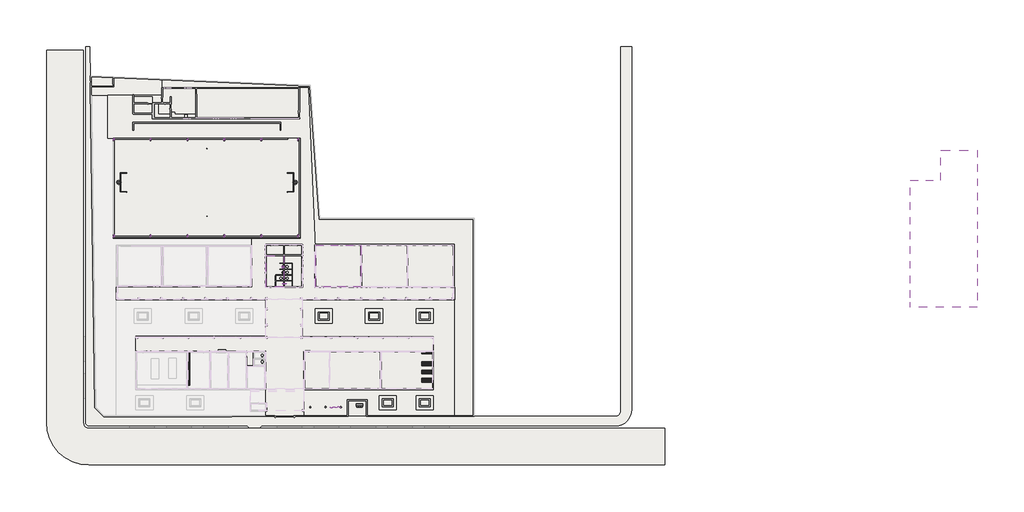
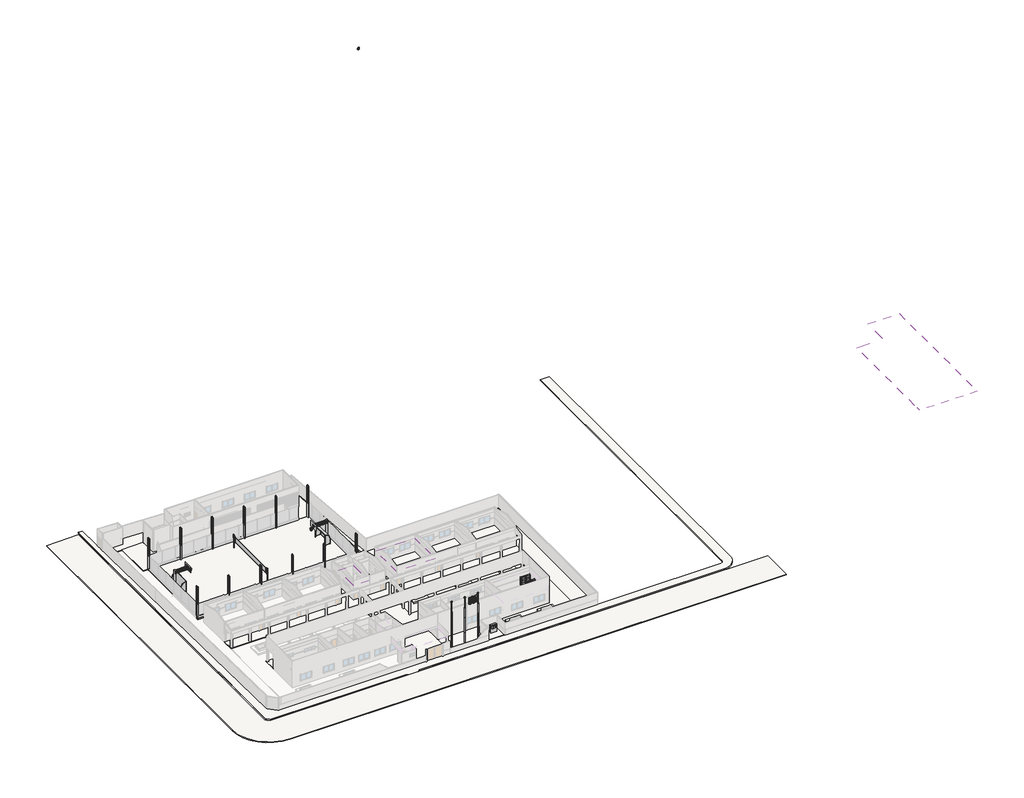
# One storey, part 28 of 28: 26 slabs, 22 furniture elements, 14 flow terminals, 13 beams, 12 columns, 5 proxies, 2 coverings, 1 geographic element, 1 roof.
"""IFC4 building model written with IfcOpenShell, lengths in millimetres."""

from ifc_helpers import new_model, si_unit, point, frame, frame_2d, origin, place, context, project, spatial, polyline, circle_curve, trimmed, segment, composite_curve, outline, extrude, faceted_brep, transform, mapped, element, save
from components import beam_10_x_25_cm_9de69e2e, specialty_equipment_000c56a8, specialty_equipment_3fbfa655, specialty_equipment_72d1c6bf, column_c75dbdb2, flow_terminal_de63d3b9, flow_terminal_a80b1843, flow_terminal_8aa249bb, flow_terminal_ba364ebe, furniture_3c5e9b6c, furniture_b24cb028, furniture_1b5c0fb5, casa2_casa_20683f13, geographic_element_0bd58b81

model = new_model("IFC4")

# Units and contexts
model_context = context("Model", 3, world=origin())
ifc_project = project(units=[si_unit("LENGTHUNIT", "METRE", prefix="MILLI")], contexts=[model_context])

# Site, building, storey
site = spatial("IfcSite", under=ifc_project)
building = spatial("IfcBuilding", under=site)
storey = spatial("IfcBuildingStorey", under=building, Name="Térreo", Elevation=0.0)

# Beams
placement = place(None, origin())
beam_10_x_25_cm_shape = beam_10_x_25_cm_9de69e2e(model_context)
element("IfcBeam", 1, ObjectType="AÇO - PILAR STEEL FRAME : 10 x 25 cm", at=placement, inside=storey, context=model_context, shape_type="MappedRepresentation", body=[
    mapped(beam_10_x_25_cm_shape, transform((-34690.0, 29370.2825557, 3000.0), x_axis=(0.0, 1.0, 0.0), y_axis=(-1.0, 0.0, 0.0), z_axis=(0.0, 0.0, 1.0))),
])
element("IfcBeam", 2, ObjectType="AÇO - PILAR STEEL FRAME : 10 x 25 cm", at=placement, inside=storey, context=model_context, shape_type="MappedRepresentation", body=[
    mapped(beam_10_x_25_cm_shape, transform((-34690.0, 45151.2025337, 3000.0), x_axis=(0.0, 1.0, 0.0), y_axis=(-1.0, 0.0, 0.0), z_axis=(0.0, 0.0, 1.0))),
])
element("IfcBeam", 3, ObjectType="AÇO - PILAR STEEL FRAME : 10 x 25 cm", at=placement, inside=storey, context=model_context, shape_type="MappedRepresentation", body=[
    mapped(beam_10_x_25_cm_shape, transform((-40690.0, 29370.2825557, 3000.0), x_axis=(0.0, 1.0, 0.0), y_axis=(-1.0, 0.0, 0.0), z_axis=(0.0, 0.0, 1.0))),
])
element("IfcBeam", 4, ObjectType="AÇO - PILAR STEEL FRAME : 10 x 25 cm", at=placement, inside=storey, context=model_context, shape_type="MappedRepresentation", body=[
    mapped(beam_10_x_25_cm_shape, transform((-40690.0, 45151.2025337, 3000.0), x_axis=(0.0, 1.0, 0.0), y_axis=(-1.0, 0.0, 0.0), z_axis=(0.0, 0.0, 1.0))),
])
element("IfcBeam", 5, ObjectType="AÇO - PILAR STEEL FRAME : 10 x 25 cm", at=placement, inside=storey, context=model_context, shape_type="MappedRepresentation", body=[
    mapped(beam_10_x_25_cm_shape, transform((-46690.0, 29370.2825557, 3000.0), x_axis=(0.0, 1.0, 0.0), y_axis=(-1.0, 0.0, 0.0), z_axis=(0.0, 0.0, 1.0))),
])
element("IfcBeam", 6, ObjectType="AÇO - PILAR STEEL FRAME : 10 x 25 cm", at=placement, inside=storey, context=model_context, shape_type="MappedRepresentation", body=[
    mapped(beam_10_x_25_cm_shape, transform((-46690.0, 45151.2025337, 3000.0), x_axis=(0.0, 1.0, 0.0), y_axis=(-1.0, 0.0, 0.0), z_axis=(0.0, 0.0, 1.0))),
])
element("IfcBeam", 7, ObjectType="AÇO - PILAR STEEL FRAME : 10 x 25 cm", at=placement, inside=storey, context=model_context, shape_type="MappedRepresentation", body=[
    mapped(beam_10_x_25_cm_shape, transform((-52690.0, 29370.2825557, 3000.0), x_axis=(0.0, 1.0, 0.0), y_axis=(-1.0, 0.0, 0.0), z_axis=(0.0, 0.0, 1.0))),
])
element("IfcBeam", 8, ObjectType="AÇO - PILAR STEEL FRAME : 10 x 25 cm", at=placement, inside=storey, context=model_context, shape_type="MappedRepresentation", body=[
    mapped(beam_10_x_25_cm_shape, transform((-58690.0, 29370.2825557, 3000.0), x_axis=(0.0, 1.0, 0.0), y_axis=(-1.0, 0.0, 0.0), z_axis=(0.0, 0.0, 1.0))),
])
element("IfcBeam", 9, ObjectType="AÇO - PILAR STEEL FRAME : 10 x 25 cm", at=placement, inside=storey, context=model_context, shape_type="MappedRepresentation", body=[
    mapped(beam_10_x_25_cm_shape, transform((-58690.0, 45151.2025337, 3000.0), x_axis=(0.0, 1.0, 0.0), y_axis=(-1.0, 0.0, 0.0), z_axis=(0.0, 0.0, 1.0))),
])
element("IfcBeam", 10, ObjectType="AÇO - PILAR STEEL FRAME : 10 x 25 cm", at=placement, inside=storey, context=model_context, shape_type="MappedRepresentation", body=[
    mapped(beam_10_x_25_cm_shape, transform((-52690.0, 29370.2825557, 3000.0), x_axis=(0.0, 1.0, 0.0), y_axis=(-1.0, 0.0, 0.0), z_axis=(0.0, 0.0, 1.0))),
])
element("IfcBeam", 11, ObjectType="AÇO - PILAR STEEL FRAME : 10 x 25 cm", at=placement, inside=storey, context=model_context, shape_type="MappedRepresentation", body=[
    mapped(beam_10_x_25_cm_shape, transform((-52690.0, 45151.2025337, 3000.0), x_axis=(0.0, 1.0, 0.0), y_axis=(-1.0, 0.0, 0.0), z_axis=(0.0, 0.0, 1.0))),
])
element("IfcBeam", 12, ObjectType="AÇO - PILAR STEEL FRAME : 10 x 25 cm", at=placement, inside=storey, context=model_context, shape_type="MappedRepresentation", body=[
    mapped(beam_10_x_25_cm_shape, transform((-28690.0, 29370.2825557, 3000.0), x_axis=(0.0, 1.0, 0.0), y_axis=(-1.0, 0.0, 0.0), z_axis=(0.0, 0.0, 1.0))),
])
element("IfcBeam", 13, ObjectType="AÇO - PILAR STEEL FRAME : 10 x 25 cm", at=placement, inside=storey, context=model_context, shape_type="MappedRepresentation", body=[
    mapped(beam_10_x_25_cm_shape, transform((-28690.0, 45151.2025337, 3000.0), x_axis=(0.0, 1.0, 0.0), y_axis=(-1.0, 0.0, 0.0), z_axis=(0.0, 0.0, 1.0))),
])

# Proxies
specialty_equipment_shape = specialty_equipment_000c56a8(model_context)
element("IfcBuildingElementProxy", 14, Name="FDE_QE02_QE42_QE43_QE44_PosteVoleibol : QE44_Pré-laje_Treliçada", ObjectType="FDE_QE02_QE42_QE43_QE44_PosteVoleibol : QE44_Pré-laje_Treliçada", at=placement, inside=storey, context=model_context, shape_type="MappedRepresentation", body=[
    mapped(specialty_equipment_shape, transform((-43513.3750193, 38120.0, 370.0), x_axis=(0.0, 1.0, 0.0), y_axis=(-1.0, 0.0, 0.0), z_axis=(0.0, 0.0, 1.0))),
])
specialty_equipment_2_shape = specialty_equipment_3fbfa655(model_context)
element("IfcBuildingElementProxy", 15, Name="FDE_QE03_QE45_QE46_QE47_TraveFutebolSalão : QE47_PreLaje_Trelicada", ObjectType="FDE_QE03_QE45_QE46_QE47_TraveFutebolSalão : QE47_PreLaje_Trelicada", at=placement, inside=storey, context=model_context, shape_type="MappedRepresentation", body=[
    mapped(specialty_equipment_2_shape, transform((-56593.3750193, 38120.0, 370.0), x_axis=(0.0, 1.0, 0.0), y_axis=(-1.0, 0.0, 0.0), z_axis=(0.0, 0.0, 1.0))),
])
element("IfcBuildingElementProxy", 16, Name="FDE_QE03_QE45_QE46_QE47_TraveFutebolSalão : QE47_PreLaje_Trelicada", ObjectType="FDE_QE03_QE45_QE46_QE47_TraveFutebolSalão : QE47_PreLaje_Trelicada", at=placement, inside=storey, context=model_context, shape_type="MappedRepresentation", body=[
    mapped(specialty_equipment_2_shape, transform((-30433.3750193, 38120.0, 370.0), x_axis=(0.0, -1.0000000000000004, 0.0), y_axis=(1.0000000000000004, 0.0, 0.0), z_axis=(0.0, 0.0, 1.0))),
])
specialty_equipment_3_shape = specialty_equipment_72d1c6bf(model_context)
element("IfcBuildingElementProxy", 17, Name="FDE_QE39_QE40_TabelaDeBasquete : QE39_LajeAlveolar", ObjectType="FDE_QE39_QE40_TabelaDeBasquete : QE39_LajeAlveolar", at=placement, inside=storey, context=model_context, shape_type="MappedRepresentation", body=[
    mapped(specialty_equipment_3_shape, transform((-57853.3750193, 38120.0, 370.0), x_axis=(0.0, 1.0, 0.0), y_axis=(-1.0, 0.0, 0.0), z_axis=(0.0, 0.0, 1.0))),
])
element("IfcBuildingElementProxy", 18, Name="FDE_QE39_QE40_TabelaDeBasquete : QE39_LajeAlveolar", ObjectType="FDE_QE39_QE40_TabelaDeBasquete : QE39_LajeAlveolar", at=placement, inside=storey, context=model_context, shape_type="MappedRepresentation", body=[
    mapped(specialty_equipment_3_shape, transform((-29173.3750193, 38120.0, 370.0), x_axis=(0.0, -1.0000000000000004, 0.0), y_axis=(1.0000000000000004, 0.0, 0.0), z_axis=(0.0, 0.0, 1.0))),
])

# Columns
column_shape = column_c75dbdb2(model_context)
element("IfcColumn", 19, ObjectType="Coluna de Sustentação de tijolo Maciço : coluna da quadra", at=placement, inside=storey, context=model_context, shape_type="MappedRepresentation", body=[
    mapped(column_shape, transform((-34690.0, 29368.7010511, 0.0), x_axis=(0.0, 1.0, 0.0), y_axis=(-1.0, 0.0, 0.0), z_axis=(0.0, 0.0, 1.0))),
])
element("IfcColumn", 20, ObjectType="Coluna de Sustentação de tijolo Maciço : coluna da quadra", at=placement, inside=storey, context=model_context, shape_type="MappedRepresentation", body=[
    mapped(column_shape, transform((-34690.0, 45150.0, 0.0), x_axis=(0.0, 1.0, 0.0), y_axis=(-1.0, 0.0, 0.0), z_axis=(0.0, 0.0, 1.0))),
])
element("IfcColumn", 21, ObjectType="Coluna de Sustentação de tijolo Maciço : coluna da quadra", at=placement, inside=storey, context=model_context, shape_type="MappedRepresentation", body=[
    mapped(column_shape, transform((-40690.0, 29368.7010511, 0.0), x_axis=(0.0, 1.0, 0.0), y_axis=(-1.0, 0.0, 0.0), z_axis=(0.0, 0.0, 1.0))),
])
element("IfcColumn", 22, ObjectType="Coluna de Sustentação de tijolo Maciço : coluna da quadra", at=placement, inside=storey, context=model_context, shape_type="MappedRepresentation", body=[
    mapped(column_shape, transform((-40690.0, 45150.0, 0.0), x_axis=(0.0, 1.0, 0.0), y_axis=(-1.0, 0.0, 0.0), z_axis=(0.0, 0.0, 1.0))),
])
element("IfcColumn", 23, ObjectType="Coluna de Sustentação de tijolo Maciço : coluna da quadra", at=placement, inside=storey, context=model_context, shape_type="MappedRepresentation", body=[
    mapped(column_shape, transform((-46690.0, 29368.7010511, 0.0), x_axis=(0.0, 1.0, 0.0), y_axis=(-1.0, 0.0, 0.0), z_axis=(0.0, 0.0, 1.0))),
])
element("IfcColumn", 24, ObjectType="Coluna de Sustentação de tijolo Maciço : coluna da quadra", at=placement, inside=storey, context=model_context, shape_type="MappedRepresentation", body=[
    mapped(column_shape, transform((-46690.0, 45150.0, 0.0), x_axis=(0.0, 1.0, 0.0), y_axis=(-1.0, 0.0, 0.0), z_axis=(0.0, 0.0, 1.0))),
])
element("IfcColumn", 25, ObjectType="Coluna de Sustentação de tijolo Maciço : coluna da quadra", at=placement, inside=storey, context=model_context, shape_type="MappedRepresentation", body=[
    mapped(column_shape, transform((-58690.0, 29368.7010511, 0.0), x_axis=(0.0, 1.0, 0.0), y_axis=(-1.0, 0.0, 0.0), z_axis=(0.0, 0.0, 1.0))),
])
element("IfcColumn", 26, ObjectType="Coluna de Sustentação de tijolo Maciço : coluna da quadra", at=placement, inside=storey, context=model_context, shape_type="MappedRepresentation", body=[
    mapped(column_shape, transform((-58690.0, 45150.0, 0.0), x_axis=(0.0, 1.0, 0.0), y_axis=(-1.0, 0.0, 0.0), z_axis=(0.0, 0.0, 1.0))),
])
element("IfcColumn", 27, ObjectType="Coluna de Sustentação de tijolo Maciço : coluna da quadra", at=placement, inside=storey, context=model_context, shape_type="MappedRepresentation", body=[
    mapped(column_shape, transform((-52690.0, 29368.7010511, 0.0), x_axis=(0.0, 1.0, 0.0), y_axis=(-1.0, 0.0, 0.0), z_axis=(0.0, 0.0, 1.0))),
])
element("IfcColumn", 28, ObjectType="Coluna de Sustentação de tijolo Maciço : coluna da quadra", at=placement, inside=storey, context=model_context, shape_type="MappedRepresentation", body=[
    mapped(column_shape, transform((-52690.0, 45150.0, 0.0), x_axis=(0.0, 1.0, 0.0), y_axis=(-1.0, 0.0, 0.0), z_axis=(0.0, 0.0, 1.0))),
])
element("IfcColumn", 29, ObjectType="Coluna de Sustentação de tijolo Maciço : coluna da quadra", at=placement, inside=storey, context=model_context, shape_type="MappedRepresentation", body=[
    mapped(column_shape, transform((-28690.0, 29368.7010511, 0.0), x_axis=(0.0, 1.0, 0.0), y_axis=(-1.0, 0.0, 0.0), z_axis=(0.0, 0.0, 1.0))),
])
element("IfcColumn", 30, ObjectType="Coluna de Sustentação de tijolo Maciço : coluna da quadra", at=placement, inside=storey, context=model_context, shape_type="MappedRepresentation", body=[
    mapped(column_shape, transform((-28690.0, 45150.0, 0.0), x_axis=(0.0, 1.0, 0.0), y_axis=(-1.0, 0.0, 0.0), z_axis=(0.0, 0.0, 1.0))),
])

# Coverings
element("IfcCovering", 31, ObjectType="FDE_S1106_Gesso_Teto_comPintura_S1406_TintaLátexStandard_emSuperfíciedeGesso", at=placement, inside=storey, context=model_context, shape_type="SweptSolid", body=[
    extrude(outline(polyline([(-18450.0, 27930.0), (-18450.0, 21180.0), (-25800.0, 21180.0), (-25800.0, 27930.0), (-18450.0, 27930.0)])), frame((0.0, 0.0, 2900.0), z_axis=(0.0, 0.0, 1.0), x_axis=(1.0, 0.0, 0.0)), (0.0, 0.0, 1.0), 50.8),
    extrude(outline(polyline([(-10950.0, 21180.0), (-18300.0, 21180.0), (-18300.0, 27930.0), (-10950.0, 27930.0), (-10950.0, 21180.0)])), frame((0.0, 0.0, 2900.0), z_axis=(0.0, 0.0, 1.0), x_axis=(1.0, 0.0, 0.0)), (0.0, 0.0, 1.0), 50.8),
    extrude(outline(polyline([(-3450.0, 27930.0), (-3450.0, 21180.0), (-10800.0, 21180.0), (-10800.0, 27930.0), (-3450.0, 27930.0)])), frame((0.0, 0.0, 2900.0), z_axis=(0.0, 0.0, 1.0), x_axis=(1.0, 0.0, 0.0)), (0.0, 0.0, 1.0), 50.8),
    extrude(outline(polyline([(-43350.0, 27750.0), (-36320.0, 27750.0), (-36320.0, 21330.0), (-43350.0, 21330.0), (-43350.0, 27750.0)])), frame((0.0, 0.0, 2900.0), z_axis=(0.0, 0.0, 1.0), x_axis=(1.0, 0.0, 0.0)), (0.0, 0.0, 1.0), 50.8),
    extrude(outline(polyline([(-50650.0, 27779.9999994), (-43470.0, 27779.9999994), (-43470.0, 21330.0), (-50650.0, 21330.0), (-50650.0, 27779.9999994)])), frame((0.0, 0.0, 2900.0), z_axis=(0.0, 0.0, 1.0), x_axis=(1.0, 0.0, 0.0)), (0.0, 0.0, 1.0), 50.8),
    extrude(outline(polyline([(-57950.0, 21300.0), (-57950.0, 27750.0), (-50770.0, 27750.0), (-50770.0, 21300.0), (-57950.0, 21300.0)])), frame((0.0, 0.0, 2900.0), z_axis=(0.0, 0.0, 1.0), x_axis=(1.0, 0.0, 0.0)), (0.0, 0.0, 1.0), 50.8),
])
element("IfcCovering", 32, ObjectType="FDE_S1106_Gesso_Teto_comPintura_S1406_TintaLátexStandard_emSuperfíciedeGesso", at=placement, inside=storey, context=model_context, shape_type="SweptSolid", body=[
    extrude(outline(polyline([(-31020.0, 27900.0), (-31020.0, 26345.0), (-33900.0, 26345.0), (-33900.0, 27900.0), (-31020.0, 27900.0)])), frame((0.0, 0.0, 2900.0), z_axis=(0.0, 0.0, 1.0), x_axis=(1.0, 0.0, 0.0)), (0.0, 0.0, 1.0), 50.8),
    extrude(outline(polyline([(-28050.0, 26375.0), (-30900.0, 26375.0), (-30900.0, 27900.0), (-28050.0, 27900.0), (-28050.0, 26375.0)])), frame((0.0, 0.0, 2900.0), z_axis=(0.0, 0.0, 1.0), x_axis=(1.0, 0.0, 0.0)), (0.0, 0.0, 1.0), 50.8),
    extrude(outline(polyline([(-30900.0, 26225.0), (-28050.0, 26225.0), (-28050.0, 21180.0), (-30900.0, 21180.0), (-30900.0, 26225.0)])), frame((0.0, 0.0, 2900.0), z_axis=(0.0, 0.0, 1.0), x_axis=(1.0, 0.0, 0.0)), (0.0, 0.0, 1.0), 50.8),
    extrude(outline(polyline([(-33900.0, 21180.0), (-33900.0, 26225.0), (-31050.0, 26225.0), (-31050.0, 21180.0), (-33900.0, 21180.0)])), frame((0.0, 0.0, 2900.0), z_axis=(0.0, 0.0, 1.0), x_axis=(1.0, 0.0, 0.0)), (0.0, 0.0, 1.0), 50.8),
])

# Flow terminals
flow_terminal_shape = flow_terminal_de63d3b9(model_context)
element("IfcFlowTerminal", 33, ObjectType="Deca_Chuveiro de Parede_AcquaPlus_1990.C.CT : 1990.C.CT", at=placement, inside=storey, context=model_context, shape_type="MappedRepresentation", body=[
    mapped(flow_terminal_shape, transform((-30930.0, 21630.0, 2100.0), x_axis=(0.0, 1.0, 0.0), y_axis=(0.0, 0.0, 1.0), z_axis=(1.0, 0.0, 0.0))),
])
element("IfcFlowTerminal", 34, ObjectType="Deca_Chuveiro de Parede_AcquaPlus_1990.C.CT : 1990.C.CT", at=placement, inside=storey, context=model_context, shape_type="MappedRepresentation", body=[
    mapped(flow_terminal_shape, transform((-30930.0, 21640.0, 2100.0), x_axis=(0.0, -1.0, 0.0), y_axis=(0.0, 0.0, 1.0), z_axis=(-1.0, 0.0, 0.0))),
])
flow_terminal_2_shape = flow_terminal_a80b1843(model_context)
element("IfcFlowTerminal", 35, ObjectType="DECA_MICTORIO_M_711_RFA : M.711.17_Branco Gelo GE17", at=placement, inside=storey, context=model_context, shape_type="MappedRepresentation", body=[
    mapped(flow_terminal_2_shape, transform((-31020.0, 24365.0, 107137.2089227), x_axis=(0.0, -1.0, 0.0), y_axis=(0.0, 0.0, 1.0), z_axis=(-1.0, 0.0, 0.0))),
])
element("IfcFlowTerminal", 36, ObjectType="DECA_MICTORIO_M_711_RFA : M.711.17_Branco Gelo GE17", at=placement, inside=storey, context=model_context, shape_type="MappedRepresentation", body=[
    mapped(flow_terminal_2_shape, transform((-31020.0, 24345.0, 107137.2089227), x_axis=(0.0, -1.0, 0.0), y_axis=(0.0, 0.0, 1.0), z_axis=(-1.0, 0.0, 0.0))),
])
element("IfcFlowTerminal", 37, ObjectType="DECA_MICTORIO_M_711_RFA : M.711.17_Branco Gelo GE17", at=placement, inside=storey, context=model_context, shape_type="MappedRepresentation", body=[
    mapped(flow_terminal_2_shape, transform((-31020.0, 23465.0, 737.2089227), x_axis=(0.0, -1.0, 0.0), y_axis=(0.0, 0.0, 1.0), z_axis=(-1.0, 0.0, 0.0))),
])
element("IfcFlowTerminal", 38, ObjectType="DECA_MICTORIO_M_711_RFA : M.711.17_Branco Gelo GE17", at=placement, inside=storey, context=model_context, shape_type="MappedRepresentation", body=[
    mapped(flow_terminal_2_shape, transform((-31020.0, 24425.0, 737.2089227), x_axis=(0.0, -1.0, 0.0), y_axis=(0.0, 0.0, 1.0), z_axis=(-1.0, 0.0, 0.0))),
])
flow_terminal_3_shape = flow_terminal_8aa249bb(model_context)
element("IfcFlowTerminal", 39, ObjectType="Deca_Shared_Assento_P.909 : Assento plástico com Microban - Ébano EB95", at=placement, inside=storey, context=model_context, shape_type="MappedRepresentation", body=[
    mapped(flow_terminal_3_shape, transform((-34524.6575758, 9156.2237191, 610.001125), x_axis=(1.0, 0.0, 0.0), y_axis=(0.0, 0.0, 1.0), z_axis=(0.0, -1.0, 0.0))),
])
element("IfcFlowTerminal", 40, ObjectType="Deca_Shared_Assento_P.909 : Assento plástico com Microban - Ébano EB95", at=placement, inside=storey, context=model_context, shape_type="MappedRepresentation", body=[
    mapped(flow_terminal_3_shape, transform((-34522.160678, 9753.025642, 610.7954583), x_axis=(-1.0, 0.0, 0.0), y_axis=(0.0, 0.0, 1.0), z_axis=(0.0, 1.0, 0.0))),
])
flow_terminal_4_shape = flow_terminal_ba364ebe(model_context)
element("IfcFlowTerminal", 41, ObjectType="FDE_H613_DispositivosRestritoresDeVazão : H613_RestritorDeVazãoPara6L/minTorneiraseMisturadores", at=placement, inside=storey, context=model_context, shape_type="MappedRepresentation", body=[
    mapped(flow_terminal_4_shape, transform((-28851.9959332, 27832.7643972, 1151.4979925), x_axis=(-1.0, 0.0, 0.0), y_axis=(0.0, -1.0, 0.0), z_axis=(0.0, 0.0, 1.0))),
])
element("IfcFlowTerminal", 42, ObjectType="FDE_H613_DispositivosRestritoresDeVazão : H613_RestritorDeVazãoPara6L/minTorneiraseMisturadores", at=placement, inside=storey, context=model_context, shape_type="MappedRepresentation", body=[
    mapped(flow_terminal_4_shape, transform((-33123.8341964, 27832.7643972, 1151.4979925), x_axis=(-1.0, 0.0, 0.0), y_axis=(0.0, -1.0, 0.0), z_axis=(0.0, 0.0, 1.0))),
])
element("IfcFlowTerminal", 43, ObjectType="Deca_Shared_Assento_P.909 : Assento plástico com Microban - Ébano EB95", at=placement, inside=storey, context=model_context, shape_type="MappedRepresentation", body=[
    mapped(flow_terminal_3_shape, transform((-30691.5990385, 24423.7515511, 610.7954583), x_axis=(0.0, 1.0, 0.0), y_axis=(0.0, 0.0, 1.0), z_axis=(1.0, 0.0, 0.0))),
])
element("IfcFlowTerminal", 44, ObjectType="Deca_Shared_Assento_P.909 : Assento plástico com Microban - Ébano EB95", at=placement, inside=storey, context=model_context, shape_type="MappedRepresentation", body=[
    mapped(flow_terminal_3_shape, transform((-30691.5990385, 23483.7515511, 590.001125), x_axis=(0.0, 1.0, 0.0), y_axis=(0.0, 0.0, 1.0), z_axis=(1.0, 0.0, 0.0))),
])
element("IfcFlowTerminal", 45, ObjectType="Deca_Shared_Assento_P.909 : Assento plástico com Microban - Ébano EB95", at=placement, inside=storey, context=model_context, shape_type="MappedRepresentation", body=[
    mapped(flow_terminal_3_shape, transform((-31258.4009615, 22546.2484489, 590.001125), x_axis=(0.0, -1.0, 0.0), y_axis=(0.0, 0.0, 1.0), z_axis=(-1.0, 0.0, 0.0))),
])
element("IfcFlowTerminal", 46, ObjectType="Deca_Shared_Assento_P.909 : Assento plástico com Microban - Ébano EB95", at=placement, inside=storey, context=model_context, shape_type="MappedRepresentation", body=[
    mapped(flow_terminal_3_shape, transform((-30691.5990385, 22523.7515511, 590.001125), x_axis=(0.0, 1.0, 0.0), y_axis=(0.0, 0.0, 1.0), z_axis=(1.0, 0.0, 0.0))),
])

# Furniture
furniture_shape = furniture_3c5e9b6c(model_context)
element("IfcFurniture", 47, ObjectType="FDE_ES05_EstanteParaExposição : ES05_EstanteParaExposição", at=placement, inside=storey, context=model_context, shape_type="MappedRepresentation", body=[
    mapped(furniture_shape, transform((-7240.0, 6061.2369384, 210.0), x_axis=(1.0, 0.0, 0.0), y_axis=(0.0, 1.0, 0.0), z_axis=(0.0, 0.0, 1.0))),
])
element("IfcFurniture", 48, ObjectType="FDE_ES05_EstanteParaExposição : ES05_EstanteParaExposição", at=placement, inside=storey, context=model_context, shape_type="MappedRepresentation", body=[
    mapped(furniture_shape, transform((-8140.0, 5761.2369384, 210.0), x_axis=(-1.0, 0.0, 0.0), y_axis=(0.0, -1.0, 0.0), z_axis=(0.0, 0.0, 1.0))),
])
element("IfcFurniture", 49, ObjectType="FDE_ES05_EstanteParaExposição : ES05_EstanteParaExposição", at=placement, inside=storey, context=model_context, shape_type="MappedRepresentation", body=[
    mapped(furniture_shape, transform((-7240.0, 7411.2369399, 210.0), x_axis=(1.0, 0.0, 0.0), y_axis=(0.0, 1.0, 0.0), z_axis=(0.0, 0.0, 1.0))),
])
element("IfcFurniture", 50, ObjectType="FDE_ES05_EstanteParaExposição : ES05_EstanteParaExposição", at=placement, inside=storey, context=model_context, shape_type="MappedRepresentation", body=[
    mapped(furniture_shape, transform((-8140.0, 7111.2369399, 210.0), x_axis=(-1.0, 0.0, 0.0), y_axis=(0.0, -1.0, 0.0), z_axis=(0.0, 0.0, 1.0))),
])
element("IfcFurniture", 51, ObjectType="FDE_ES05_EstanteParaExposição : ES05_EstanteParaExposição", at=placement, inside=storey, context=model_context, shape_type="MappedRepresentation", body=[
    mapped(furniture_shape, transform((-7240.0, 8761.2369414, 210.0), x_axis=(1.0, 0.0, 0.0), y_axis=(0.0, 1.0, 0.0), z_axis=(0.0, 0.0, 1.0))),
])
element("IfcFurniture", 52, ObjectType="FDE_ES05_EstanteParaExposição : ES05_EstanteParaExposição", at=placement, inside=storey, context=model_context, shape_type="MappedRepresentation", body=[
    mapped(furniture_shape, transform((-8140.0, 8461.2369414, 210.0), x_axis=(-1.0, 0.0, 0.0), y_axis=(0.0, -1.0, 0.0), z_axis=(0.0, 0.0, 1.0))),
])
element("IfcFurniture", 53, ObjectType="FDE_ES05_EstanteParaExposição : ES05_EstanteParaExposição", at=placement, inside=storey, context=model_context, shape_type="MappedRepresentation", body=[
    mapped(furniture_shape, transform((-7240.0, 10410.0, 210.0), x_axis=(1.0, 0.0, 0.0), y_axis=(0.0, 1.0, 0.0), z_axis=(0.0, 0.0, 1.0))),
])
element("IfcFurniture", 54, ObjectType="FDE_ES05_EstanteParaExposição : ES05_EstanteParaExposição", at=placement, inside=storey, context=model_context, shape_type="MappedRepresentation", body=[
    mapped(furniture_shape, transform((-46483.4091269, 9167.3195082, 210.0), x_axis=(0.0, -1.0, 0.0), y_axis=(1.0, 0.0, 0.0), z_axis=(0.0, 0.0, 1.0))),
])
element("IfcFurniture", 55, ObjectType="FDE_ES05_EstanteParaExposição : ES05_EstanteParaExposição", at=placement, inside=storey, context=model_context, shape_type="MappedRepresentation", body=[
    mapped(furniture_shape, transform((-46483.4091269, 7369.5695082, 210.0), x_axis=(0.0, -1.0, 0.0), y_axis=(1.0, 0.0, 0.0), z_axis=(0.0, 0.0, 1.0))),
])
element("IfcFurniture", 56, ObjectType="FDE_ES05_EstanteParaExposição : ES05_EstanteParaExposição", at=placement, inside=storey, context=model_context, shape_type="MappedRepresentation", body=[
    mapped(furniture_shape, transform((-46483.4091269, 5571.0195082, 210.0), x_axis=(0.0, -1.0, 0.0), y_axis=(1.0, 0.0, 0.0), z_axis=(0.0, 0.0, 1.0))),
])
furniture_2_shape = furniture_b24cb028(model_context)
element("IfcFurniture", 57, ObjectType="FDE_ES05_EstanteParaExposição : ES05_EstanteParaExposição", at=placement, inside=storey, context=model_context, shape_type="MappedRepresentation", body=[
    mapped(furniture_2_shape, transform((-7240.0, 5761.2369384, 210.0), x_axis=(1.0, 0.0, 0.0), y_axis=(0.0, 1.0, 0.0), z_axis=(0.0, 0.0, 1.0))),
])
element("IfcFurniture", 58, ObjectType="FDE_ES05_EstanteParaExposição : ES05_EstanteParaExposição", at=placement, inside=storey, context=model_context, shape_type="MappedRepresentation", body=[
    mapped(furniture_2_shape, transform((-8140.0, 6061.2369384, 210.0), x_axis=(-1.0, 0.0, 0.0), y_axis=(0.0, -1.0, 0.0), z_axis=(0.0, 0.0, 1.0))),
])
element("IfcFurniture", 59, ObjectType="FDE_ES05_EstanteParaExposição : ES05_EstanteParaExposição", at=placement, inside=storey, context=model_context, shape_type="MappedRepresentation", body=[
    mapped(furniture_2_shape, transform((-7240.0, 7111.2369399, 210.0), x_axis=(1.0, 0.0, 0.0), y_axis=(0.0, 1.0, 0.0), z_axis=(0.0, 0.0, 1.0))),
])
element("IfcFurniture", 60, ObjectType="FDE_ES05_EstanteParaExposição : ES05_EstanteParaExposição", at=placement, inside=storey, context=model_context, shape_type="MappedRepresentation", body=[
    mapped(furniture_2_shape, transform((-8140.0, 7411.2369399, 210.0), x_axis=(-1.0, 0.0, 0.0), y_axis=(0.0, -1.0, 0.0), z_axis=(0.0, 0.0, 1.0))),
])
element("IfcFurniture", 61, ObjectType="FDE_ES05_EstanteParaExposição : ES05_EstanteParaExposição", at=placement, inside=storey, context=model_context, shape_type="MappedRepresentation", body=[
    mapped(furniture_2_shape, transform((-7240.0, 8461.2369414, 210.0), x_axis=(1.0, 0.0, 0.0), y_axis=(0.0, 1.0, 0.0), z_axis=(0.0, 0.0, 1.0))),
])
element("IfcFurniture", 62, ObjectType="FDE_ES05_EstanteParaExposição : ES05_EstanteParaExposição", at=placement, inside=storey, context=model_context, shape_type="MappedRepresentation", body=[
    mapped(furniture_2_shape, transform((-8140.0, 8761.2369414, 210.0), x_axis=(-1.0, 0.0, 0.0), y_axis=(0.0, -1.0, 0.0), z_axis=(0.0, 0.0, 1.0))),
])
element("IfcFurniture", 63, ObjectType="FDE_ES05_EstanteParaExposição : ES05_EstanteParaExposição", at=placement, inside=storey, context=model_context, shape_type="MappedRepresentation", body=[
    mapped(furniture_2_shape, transform((-8140.0, 10410.0, 210.0), x_axis=(-1.0, 0.0, 0.0), y_axis=(0.0, -1.0, 0.0), z_axis=(0.0, 0.0, 1.0))),
])
element("IfcFurniture", 64, ObjectType="FDE_ES05_EstanteParaExposição : ES05_EstanteParaExposição", at=placement, inside=storey, context=model_context, shape_type="MappedRepresentation", body=[
    mapped(furniture_2_shape, transform((-46483.4091269, 10067.3195082, 210.0), x_axis=(0.0, 1.0, 0.0), y_axis=(-1.0, 0.0, 0.0), z_axis=(0.0, 0.0, 1.0))),
])
element("IfcFurniture", 65, ObjectType="FDE_ES05_EstanteParaExposição : ES05_EstanteParaExposição", at=placement, inside=storey, context=model_context, shape_type="MappedRepresentation", body=[
    mapped(furniture_2_shape, transform((-46483.4091269, 8269.5695082, 210.0), x_axis=(0.0, 1.0, 0.0), y_axis=(-1.0, 0.0, 0.0), z_axis=(0.0, 0.0, 1.0))),
])
element("IfcFurniture", 66, ObjectType="FDE_ES05_EstanteParaExposição : ES05_EstanteParaExposição", at=placement, inside=storey, context=model_context, shape_type="MappedRepresentation", body=[
    mapped(furniture_2_shape, transform((-46483.4091269, 6471.0195082, 210.0), x_axis=(0.0, 1.0, 0.0), y_axis=(-1.0, 0.0, 0.0), z_axis=(0.0, 0.0, 1.0))),
])
furniture_3_shape = furniture_1b5c0fb5(model_context)
element("IfcFurniture", 67, ObjectType="FDE_BD02_BandeiraPaulista2 : BD02_BandeiraPiauí", at=placement, inside=storey, context=model_context, shape_type="MappedRepresentation", body=[
    mapped(furniture_3_shape, transform((-21716.6522241, 1556.1487112, 7424.7150963), x_axis=(-1.0, 0.0, 0.0), y_axis=(0.0, -1.0, 0.0), z_axis=(0.0, 0.0, 1.0))),
])
casa2_casa_shape = casa2_casa_20683f13(model_context)
element("IfcFurniture", 68, ObjectType="Casa2 : Casa", at=placement, inside=storey, context=model_context, shape_type="MappedRepresentation", body=[
    mapped(casa2_casa_shape, transform((201527.0120546, 111341.1011936, 0.0), x_axis=(1.0, 0.0, 0.0), y_axis=(0.0, 1.0, 0.0), z_axis=(0.0, 0.0, 1.0))),
])

# Geographic element
geographic_element_shape = geographic_element_0bd58b81(model_context)
element("IfcGeographicElement", 69, ObjectType="FDE_MB03_MastrodeBandeira2 : MB03_MastrodeBandeira 2", at=placement, inside=storey, context=model_context, shape_type="MappedRepresentation", body=[
    mapped(geographic_element_shape, transform((-24216.6522241, 2056.1487112, 0.0), x_axis=(-1.0, 0.0, 0.0), y_axis=(0.0, -1.0, 0.0), z_axis=(0.0, 0.0, 1.0))),
])

# Roof
element("IfcRoof", 70, ObjectType="Telha Metálica", at=placement, inside=storey, context=model_context, shape_type="Brep", body=[
    faceted_brep([(75963.4893152, 43384.4596025, 3697.0), (81903.4893152, 43384.4596025, 4291.0), (81903.4893152, 17804.4596024, 4291.0), (70993.4893152, 17804.4596024, 3200.0), (70993.4893152, 19364.4596024, 3200.0), (70993.4893152, 38444.4596024, 3200.0), (75963.4893152, 38444.4596024, 3697.0), (81903.4893152, 43384.4596025, 4341.2493781), (75963.4893152, 43384.4596025, 3747.2493781), (75963.4893152, 38444.4596024, 3747.2493781), (70993.4893152, 38444.4596024, 3250.2493781), (70993.4893152, 19364.4596024, 3250.2493781), (70993.4893152, 17804.4596024, 3250.2493781), (81903.4893152, 17804.4596024, 4341.2493781)], [[[0, 1, 2, 3, 4, 5, 6]], [[7, 8, 9, 10, 11, 12, 13]], [[4, 11, 10, 5]], [[8, 7, 1, 0]], [[7, 13, 2, 1]], [[13, 12, 3, 2]], [[10, 9, 6, 5]], [[9, 8, 0, 6]], [[12, 11, 4, 3]]]),
])

# Slabs
element("IfcSlab", 71, ObjectType="FDE_PisoInterno_S1205_Granilite", at=placement, inside=storey, context=model_context, shape_type="SweptSolid", body=[
    extrude(outline(polyline([(-18450.0, 27900.0), (-18450.0, 21180.0), (-25800.0, 21180.0), (-25800.0, 27900.0), (-18450.0, 27900.0)])), frame((0.0, 0.0, 185.0), z_axis=(0.0, 0.0, 1.0), x_axis=(1.0, 0.0, 0.0)), (0.0, 0.0, 1.0), 35.0),
    extrude(outline(polyline([(-10950.0, 21180.0), (-18300.0, 21180.0), (-18300.0, 27900.0), (-10950.0, 27900.0), (-10950.0, 21180.0)])), frame((0.0, 0.0, 185.0), z_axis=(0.0, 0.0, 1.0), x_axis=(1.0, 0.0, 0.0)), (0.0, 0.0, 1.0), 35.0),
    extrude(outline(polyline([(-3450.0, 27900.0), (-3450.0, 21180.0), (-10800.0, 21180.0), (-10800.0, 27900.0), (-3450.0, 27900.0)])), frame((0.0, 0.0, 185.0), z_axis=(0.0, 0.0, 1.0), x_axis=(1.0, 0.0, 0.0)), (0.0, 0.0, 1.0), 35.0),
])
element("IfcSlab", 72, ObjectType="FDE_PisoInterno_S1205_Granilite", at=placement, inside=storey, context=model_context, shape_type="SweptSolid", body=[
    extrude(outline(polyline([(-15300.0, 4550.0), (-27630.0, 4550.0), (-27630.0, 10550.0), (-15300.0, 10550.0), (-15300.0, 4550.0)])), frame((0.0, 0.0, 185.0), z_axis=(0.0, 0.0, 1.0), x_axis=(1.0, 0.0, 0.0)), (0.0, 0.0, 1.0), 35.0),
    extrude(outline(polyline([(-6800.0, 10550.0), (-6800.0, 4550.0), (-15180.0, 4550.0), (-15180.0, 10550.0), (-6800.0, 10550.0)])), frame((0.0, 0.0, 185.0), z_axis=(0.0, 0.0, 1.0), x_axis=(1.0, 0.0, 0.0)), (0.0, 0.0, 1.0), 35.0),
])
element("IfcSlab", 73, ObjectType="FDE_PisoInterno_S1205_Granilite", at=placement, inside=storey, context=model_context, shape_type="SweptSolid", body=[
    extrude(outline(polyline([(-28600.0, 53419.0879102), (-28600.0, 48619.0879102), (-45220.0, 48619.0879102), (-45220.0, 53419.0879102), (-28600.0, 53419.0879102)])), frame((0.0, 0.0, 185.0), z_axis=(0.0, 0.0, 1.0), x_axis=(1.0, 0.0, 0.0)), (0.0, 0.0, 1.0), 35.0),
])
element("IfcSlab", 74, ObjectType="FDE_PisoInterno_S1205_Granilite", at=placement, inside=storey, context=model_context, shape_type="SweptSolid", body=[
    extrude(outline(polyline([(-49516.66665, 50919.0879102), (-49516.66665, 48619.0879102), (-50736.66665, 48619.0879102), (-50736.66665, 50919.0879102), (-49516.66665, 50919.0879102)])), frame((0.0, 0.0, 185.0), z_axis=(0.0, 0.0, 1.0), x_axis=(1.0, 0.0, 0.0)), (0.0, 0.0, 1.0), 35.0),
    extrude(outline(polyline([(-45370.0, 48619.0879102), (-49366.66665, 48619.0879102), (-49366.66665, 52069.0879102), (-49516.66665, 52069.0879102), (-49516.66665, 51069.0879102), (-50736.66665, 51069.0879102), (-50736.66665, 53419.0879102), (-49366.66665, 53419.0879102), (-45370.0, 53419.0879102), (-45370.0, 48619.0879102)])), frame((0.0, 0.0, 185.0), z_axis=(0.0, 0.0, 1.0), x_axis=(1.0, 0.0, 0.0)), (0.0, 0.0, 1.0), 35.0),
])
element("IfcSlab", 75, ObjectType="FDE_PisoInterno_S1205_Granilite", at=placement, inside=storey, context=model_context, shape_type="SweptSolid", body=[
    extrude(outline(polyline([(-52416.66665, 52050.0), (-52416.66665, 49350.0), (-55466.66665, 49350.0), (-55466.66665, 52050.0), (-52416.66665, 52050.0)])), frame((0.0, 0.0, 185.0), z_axis=(0.0, 0.0, 1.0), x_axis=(1.0, 0.0, 0.0)), (0.0, 0.0, 1.0), 35.0),
])
element("IfcSlab", 76, ObjectType="FDE_PisoInterno_S1205_Granilite", at=placement, inside=storey, context=model_context, shape_type="SweptSolid", body=[
    extrude(outline(polyline([(-18450.0, 27900.0), (-18450.0, 21180.0), (-25800.0, 21180.0), (-25800.0, 27900.0), (-18450.0, 27900.0)])), frame((0.0, 0.0, 185.0), z_axis=(0.0, 0.0, 1.0), x_axis=(1.0, 0.0, 0.0)), (0.0, 0.0, 1.0), 35.0),
    extrude(outline(polyline([(-10950.0, 21180.0), (-18300.0, 21180.0), (-18300.0, 27900.0), (-10950.0, 27900.0), (-10950.0, 21180.0)])), frame((0.0, 0.0, 185.0), z_axis=(0.0, 0.0, 1.0), x_axis=(1.0, 0.0, 0.0)), (0.0, 0.0, 1.0), 35.0),
    extrude(outline(polyline([(-3450.0, 27900.0), (-3450.0, 21180.0), (-10800.0, 21180.0), (-10800.0, 27900.0), (-3450.0, 27900.0)])), frame((0.0, 0.0, 185.0), z_axis=(0.0, 0.0, 1.0), x_axis=(1.0, 0.0, 0.0)), (0.0, 0.0, 1.0), 35.0),
])
element("IfcSlab", 77, ObjectType="FDE_PisoInterno_S1205_Granilite", at=placement, inside=storey, context=model_context, shape_type="SweptSolid", body=[
    extrude(outline(polyline([(-28570.0, 48609.0879102), (-45250.0, 48609.0879102), (-45250.0, 53449.0879102), (-28570.0, 53449.0879102), (-28570.0, 48609.0879102)])), frame((0.0, 0.0, 185.0), z_axis=(0.0, 0.0, 1.0), x_axis=(1.0, 0.0, 0.0)), (0.0, 0.0, 1.0), 35.0),
    extrude(outline(polyline([(-49366.66665, 48589.0879102), (-49366.66665, 51069.0879102), (-50486.66665, 51069.0879102), (-50486.66665, 51119.0879102), (-50736.66665, 51119.0879102), (-50736.66665, 53419.0879102), (-45340.0, 53419.0879102), (-45340.0, 48589.0879102), (-49366.66665, 48589.0879102)])), frame((0.0, 0.0, 185.0), z_axis=(0.0, 0.0, 1.0), x_axis=(1.0, 0.0, 0.0)), (0.0, 0.0, 1.0), 35.0),
])
element("IfcSlab", 78, ObjectType="FDE_PisoInterno_S1205_Granilite", at=placement, inside=storey, context=model_context, shape_type="SweptSolid", body=[
    extrude(outline(polyline([(-49516.66665, 50919.0879102), (-49516.66665, 48619.0879102), (-52086.66665, 48619.0879102), (-52086.66665, 50919.0879102), (-49516.66665, 50919.0879102)])), frame((0.0, 0.0, 185.0), z_axis=(0.0, 0.0, 1.0), x_axis=(1.0, 0.0, 0.0)), (0.0, 0.0, 1.0), 35.0),
])
element("IfcSlab", 79, ObjectType="FDE_PisoInterno_S1205_Granilite", at=placement, inside=storey, context=model_context, shape_type="SweptSolid", body=[
    extrude(outline(polyline([(-55436.66665, 50919.0879102), (-52236.66665, 50919.0879102), (-52236.66665, 49350.0), (-55436.66665, 49350.0), (-55436.66665, 50919.0879102)])), frame((0.0, 0.0, 185.0), z_axis=(0.0, 0.0, 1.0), x_axis=(1.0, 0.0, 0.0)), (0.0, 0.0, 1.0), 35.0),
])
element("IfcSlab", 80, ObjectType="FDE_PisoInterno_S1231_PorcelanatoEsmaltado_60x60cm", at=placement, inside=storey, context=model_context, shape_type="SweptSolid", body=[
    extrude(outline(polyline([(-30900.0, 27930.0), (-28020.0, 27930.0), (-28020.0, 21180.0), (-30900.0, 21180.0), (-30900.0, 27930.0)])), frame((0.0, 0.0, 100.0), z_axis=(0.0, 0.0, 1.0), x_axis=(1.0, 0.0, 0.0)), (0.0, 0.0, 1.0), 100.0),
    extrude(outline(polyline([(-33900.0, 21180.0), (-33900.0, 27930.0), (-31050.0, 27930.0), (-31050.0, 21180.0), (-33900.0, 21180.0)])), frame((0.0, 0.0, 100.0), z_axis=(0.0, 0.0, 1.0), x_axis=(1.0, 0.0, 0.0)), (0.0, 0.0, 1.0), 100.0),
])
element("IfcSlab", 81, ObjectType="FDE_PisoExterno_S1226_PavimentaçãoIntertravada_Passeio", at=placement, inside=storey, context=model_context, shape_type="SweptSolid", body=[
    extrude(outline(polyline([(-6650.0, 4400.0000005), (-6650.0, 13040.9719297), (-27979.0, 13040.9719297), (-27979.0, 19030.0), (-3300.0, 19030.0), (-3300.0, 4249.9999947), (-3300.0, 152.3551074), (-27750.0, 152.3551074), (-27750.0, 4400.0000005), (-6650.0, 4400.0000005)]), holes=[polyline([(-23780.7590053, 16874.1451949), (-25266.7590053, 16874.1451949), (-25266.7590053, 15888.1451949), (-23780.7590053, 15888.1451949), (-23780.7590053, 16874.1451949)]), polyline([(-17064.3203436, 15888.1451949), (-15578.3203436, 15888.1451949), (-15578.3203436, 16874.1451949), (-17064.3203436, 16874.1451949), (-17064.3203436, 15888.1451949)]), polyline([(-8814.0948906, 16874.1451949), (-8814.0948906, 15888.1451949), (-7328.0948906, 15888.1451949), (-7328.0948906, 16874.1451949), (-8814.0948906, 16874.1451949)]), polyline([(-7337.0, 1794.7308554), (-7337.0, 2780.7308554), (-8823.0, 2780.7308554), (-8823.0, 1794.7308554), (-7337.0, 1794.7308554)]), polyline([(-13337.0, 1794.7308554), (-13337.0, 2780.7308554), (-14823.0, 2780.7308554), (-14823.0, 1794.7308554), (-13337.0, 1794.7308554)])]), frame((0.0, 0.0, -60.0), z_axis=(0.0, 0.0, 1.0), x_axis=(1.0, 0.0, 0.0)), (0.0, 0.0, 1.0), 160.0),
])
element("IfcSlab", 82, ObjectType="FDE_PisoExterno_S1226_PavimentaçãoIntertravada_Passeio", at=placement, inside=storey, context=model_context, shape_type="SweptSolid", body=[
    extrude(outline(polyline([(-58674.1866069, 53699.8785028), (-58674.1866069, 55149.4166119), (-50886.66665, 54815.8183209), (-50886.66665, 53690.8785028), (-50886.66665, 52350.0), (-62324.1337598, 52350.0), (-62324.1337598, 53699.8785028), (-58674.1866069, 53699.8785028)])), frame((0.0, 0.0, -60.0), z_axis=(0.0, 0.0, 1.0), x_axis=(1.0, 0.0, 0.0)), (0.0, 0.0, 1.0), 160.0),
])
element("IfcSlab", 83, ObjectType="FDE_PisoInterno_S1205_Granilite", at=placement, inside=storey, context=model_context, shape_type="SweptSolid", body=[
    extrude(outline(polyline([(-33974.4091269, 13050.0), (-33974.4091269, 19030.0), (-58250.0, 19030.0), (-58250.0, 21210.0), (-36230.0, 21210.0), (-36230.0, 29050.0), (-28300.0, 29050.0), (-28300.0, 45350.0), (-31300.0, 45350.0), (-31305.0, 45350.0), (-59645.4902086, 45350.0), (-59645.4902086, 52350.0), (-55556.66665, 52350.0), (-55556.66665, 49230.0), (-52356.66665, 49230.0), (-52356.66665, 48469.0879102), (-28450.0, 48469.0879102), (-28450.0, 53569.0879102), (-27025.7078157, 53569.0879102), (-25920.0, 27338.3080088), (-25920.0, 21030.0), (-3150.0, 21030.0), (-3150.0, 19030.0), (-27979.0, 19030.0), (-27979.0, 13040.9719297), (-6650.0, 13040.9719297), (-6650.0, 10685.0), (-27750.0, 10685.0), (-27750.0, 150.0), (-33953.4091269, 150.0), (-33953.4091269, 10667.3195082), (-35963.4091269, 10667.3195082), (-35963.4091269, 8299.2493611), (-37023.4091269, 8299.2493611), (-37023.4091269, 10631.3195082), (-55123.4091269, 10631.3195082), (-55123.4091269, 13050.0), (-33974.4091269, 13050.0)]), holes=[polyline([(-28020.0, 28050.0), (-33900.0, 28050.0), (-33900.0, 21030.0), (-28020.0, 21030.0), (-28020.0, 28050.0)])]), frame((0.0, 0.0, 165.0), z_axis=(0.0, 0.0, 1.0), x_axis=(1.0, 0.0, 0.0)), (0.0, 0.0, 1.0), 35.0),
])
element("IfcSlab", 84, ObjectType="FDE_PisoInterno_S1205_Granilite", at=placement, inside=storey, context=model_context, shape_type="SweptSolid", body=[
    extrude(outline(polyline([(-55436.66665, 52350.0), (-50886.66665, 52350.0), (-50886.66665, 51069.0879102), (-55436.66665, 51069.0879102), (-55436.66665, 52350.0)])), frame((0.0, 0.0, 185.0), z_axis=(0.0, 0.0, 1.0), x_axis=(1.0, 0.0, 0.0)), (0.0, 0.0, 1.0), 35.0),
])
element("IfcSlab", 85, ObjectType="FDE_PisoInterno_S1205_Granilite", at=placement, inside=storey, context=model_context, shape_type="SweptSolid", body=[
    extrude(outline(polyline([(-58674.1866069, 53810.8785028), (-62325.7066744, 53810.8785028), (-62346.9037291, 55306.7468225), (-58674.1866069, 55149.4166119), (-58674.1866069, 53810.8785028)])), frame((0.0, 0.0, 185.0), z_axis=(0.0, 0.0, 1.0), x_axis=(1.0, 0.0, 0.0)), (0.0, 0.0, 1.0), 35.0),
])
element("IfcSlab", 86, ObjectType="Bancadas em Granito", at=placement, inside=storey, context=model_context, shape_type="SweptSolid", body=[
    extrude(outline(polyline([(-49366.66665, 48619.0879102), (-49366.66665, 49219.0879102), (-49366.66665, 49569.0879102), (-48766.66665, 49569.0879102), (-48766.66665, 49219.0879102), (-45370.0000019, 49219.0879102), (-45370.0000019, 48619.0879102), (-49366.66665, 48619.0879102)]), holes=[composite_curve([segment(trimmed(circle_curve(frame_2d((-47107.5000024, 49077.5683755)), 39.9999991), [point((-47107.5000024, 49117.5683746))], [point((-47147.5000015, 49077.5683755))], True, "CARTESIAN"), True, "CONTINUOUS"), segment(polyline([(-47147.5000015, 49077.5683755), (-47147.5000015, 48807.5683741)]), True, "CONTINUOUS"), segment(trimmed(circle_curve(frame_2d((-47107.5000024, 48807.5683741)), 39.9999991), [point((-47147.5000015, 48807.5683741))], [point((-47107.5000024, 48767.568375))], True, "CARTESIAN"), True, "CONTINUOUS"), segment(polyline([(-47107.5000024, 48767.568375), (-46782.5000006, 48767.568375)]), True, "CONTINUOUS"), segment(trimmed(circle_curve(frame_2d((-46782.5000006, 48807.5683741)), 39.9999991), [point((-46782.5000006, 48767.568375))], [point((-46742.5000014, 48807.5683741))], True, "CARTESIAN"), True, "CONTINUOUS"), segment(polyline([(-46742.5000014, 48807.5683741), (-46742.5000014, 49077.5683755)]), True, "CONTINUOUS"), segment(trimmed(circle_curve(frame_2d((-46782.5000006, 49077.5683755)), 39.9999991), [point((-46742.5000014, 49077.5683755))], [point((-46782.5000006, 49117.5683746))], True, "CARTESIAN"), True, "CONTINUOUS"), segment(polyline([(-46782.5000006, 49117.5683746), (-47107.5000024, 49117.5683746)]), True, "CONTINUOUS")], self_intersect=False)]), frame((0.0, 0.0, 1070.0), z_axis=(0.0, 0.0, 1.0), x_axis=(1.0, 0.0, 0.0)), (0.0, 0.0, 1.0), 30.0),
])
element("IfcSlab", 87, ObjectType="Bancos de Concreto_Área Externa", at=placement, inside=storey, context=model_context, shape_type="SweptSolid", body=[
    extrude(outline(polyline([(-25923.7590053, 15231.1451949), (-25923.7590053, 17531.1451949), (-23123.7590053, 17531.1451949), (-23123.7590053, 15231.1451949), (-25923.7590053, 15231.1451949)]), holes=[polyline([(-23623.7590053, 17031.1451949), (-25423.7590053, 17031.1451949), (-25423.7590053, 15731.1451949), (-23623.7590053, 15731.1451949), (-23623.7590053, 17031.1451949)])]), frame((0.0, 0.0, 100.0), z_axis=(0.0, 0.0, 1.0), x_axis=(1.0, 0.0, 0.0)), (0.0, 0.0, 1.0), 350.0),
])
element("IfcSlab", 88, ObjectType="Bancos de Concreto_Área Externa", at=placement, inside=storey, context=model_context, shape_type="SweptSolid", body=[
    extrude(outline(polyline([(-17721.3203436, 15231.1451949), (-17721.3203436, 17531.1451949), (-14921.3203436, 17531.1451949), (-14921.3203436, 15231.1451949), (-17721.3203436, 15231.1451949)]), holes=[polyline([(-15421.3203436, 17031.1451949), (-17221.3203436, 17031.1451949), (-17221.3203436, 15731.1451949), (-15421.3203436, 15731.1451949), (-15421.3203436, 17031.1451949)])]), frame((0.0, 0.0, 100.0), z_axis=(0.0, 0.0, 1.0), x_axis=(1.0, 0.0, 0.0)), (0.0, 0.0, 1.0), 350.0),
])
element("IfcSlab", 89, ObjectType="Bancos de Concreto_Área Externa", at=placement, inside=storey, context=model_context, shape_type="SweptSolid", body=[
    extrude(outline(polyline([(-9471.0948906, 15231.1451949), (-9471.0948906, 17531.1451949), (-6671.0948906, 17531.1451949), (-6671.0948906, 15231.1451949), (-9471.0948906, 15231.1451949)]), holes=[polyline([(-7171.0948906, 17031.1451949), (-8971.0948906, 17031.1451949), (-8971.0948906, 15731.1451949), (-7171.0948906, 15731.1451949), (-7171.0948906, 17031.1451949)])]), frame((0.0, 0.0, 100.0), z_axis=(0.0, 0.0, 1.0), x_axis=(1.0, 0.0, 0.0)), (0.0, 0.0, 1.0), 350.0),
])
element("IfcSlab", 90, ObjectType="Bancos de Concreto_Área Externa", at=placement, inside=storey, context=model_context, shape_type="SweptSolid", body=[
    extrude(outline(polyline([(-9480.0, 1137.7308554), (-9480.0, 3437.7308554), (-6680.0, 3437.7308554), (-6680.0, 1137.7308554), (-9480.0, 1137.7308554)]), holes=[polyline([(-7180.0, 2937.7308554), (-8980.0, 2937.7308554), (-8980.0, 1637.7308554), (-7180.0, 1637.7308554), (-7180.0, 2937.7308554)])]), frame((0.0, 0.0, 100.0), z_axis=(0.0, 0.0, 1.0), x_axis=(1.0, 0.0, 0.0)), (0.0, 0.0, 1.0), 350.0),
])
element("IfcSlab", 91, ObjectType="FDE_PisoExterno_S1226_PavimentaçãoIntertravada_Passeio", at=placement, inside=storey, context=model_context, shape_type="SweptSolid", body=[
    extrude(outline(composite_curve([segment(trimmed(circle_curve(frame_2d((23001.9298894, 924.265116)), 847.0), [point((23001.9298894, 77.265116))], [point((23848.9298894, 924.265116))], True, "CARTESIAN"), True, "CONTINUOUS"), segment(polyline([(23848.9298894, 924.265116), (23848.9298894, 60245.0082983), (25621.9298894, 60245.0082983), (25621.9298894, 1120.0000012)]), True, "CONTINUOUS"), segment(trimmed(circle_curve(frame_2d((23001.9298894, 1120.0000012)), 2620.0), [point((25621.9298894, 1120.0000012))], [point((23001.9298894, -1499.9999988))], False, "CARTESIAN"), True, "CONTINUOUS"), segment(polyline([(23001.9298894, -1499.9999988), (-34567.1797589, -1499.9999992), (-35067.1797589, -1999.9999992), (-36493.9564545, -1999.9999992), (-36993.9564539, -1499.9999998), (-62751.3605251, -1499.9999998)]), True, "CONTINUOUS"), segment(trimmed(circle_curve(frame_2d((-62751.3605251, -995.498748)), 504.5012518), [point((-62751.3605251, -1499.9999998))], [point((-63255.8617769, -995.498748))], False, "CARTESIAN"), True, "CONTINUOUS"), segment(polyline([(-63255.8617769, -995.498748), (-63255.8617769, 60245.0082983), (-62589.5552262, 60245.0082983), (-61715.1063339, 1409.4159406), (-60382.9555093, 77.265116), (23001.9298894, 77.265116)]), True, "CONTINUOUS")], self_intersect=False)), frame((0.0, 0.0, -60.0), z_axis=(0.0, 0.0, 1.0), x_axis=(1.0, 0.0, 0.0)), (0.0, 0.0, 1.0), 160.0),
])
element("IfcSlab", 92, ObjectType="FDE_PisoExterno_S1207_ConcretoLiso_FundaçãoDireta _QuadraPoliesportiva", at=placement, inside=storey, context=model_context, shape_type="SweptSolid", body=[
    extrude(outline(polyline([(-28300.0, 45350.0), (-28300.0, 29050.0), (-58750.0, 29050.0), (-58750.0, 45350.0), (-28300.0, 45350.0)])), frame((0.0, 0.0, -180.0), z_axis=(0.0, 0.0, 1.0), x_axis=(1.0, 0.0, 0.0)), (0.0, 0.0, 1.0), 400.0),
])
element("IfcSlab", 93, ObjectType="Bancos de Concreto_Área Externa", at=placement, inside=storey, context=model_context, shape_type="SweptSolid", body=[
    extrude(outline(polyline([(-15480.0, 1137.7308554), (-15480.0, 3437.7308554), (-12680.0, 3437.7308554), (-12680.0, 1137.7308554), (-15480.0, 1137.7308554)]), holes=[polyline([(-13180.0, 2937.7308554), (-14980.0, 2937.7308554), (-14980.0, 1637.7308554), (-13180.0, 1637.7308554), (-13180.0, 2937.7308554)])]), frame((0.0, 0.0, 100.0), z_axis=(0.0, 0.0, 1.0), x_axis=(1.0, 0.0, 0.0)), (0.0, 0.0, 1.0), 350.0),
])
element("IfcSlab", 94, ObjectType="Genérico 150 mm - Preenchido", at=placement, inside=storey, context=model_context, shape_type="SweptSolid", body=[
    extrude(outline(composite_curve([segment(polyline([(30991.0, -1880.0043141), (30991.0, -7867.6612909), (-23546.677548, -7867.6612909), (-62751.3432679, -7867.6612909)]), True, "CONTINUOUS"), segment(trimmed(circle_curve(frame_2d((-62751.3432679, -987.6548192)), 6880.0064717), [point((-62751.3432679, -7867.6612909))], [point((-69631.3497396, -987.6548192))], False, "CARTESIAN"), True, "CONTINUOUS"), segment(polyline([(-69631.3497396, -987.6548192), (-69631.3497396, 59640.3094351), (-63631.3497396, 59640.3094351), (-63631.3497396, -999.9978424)]), True, "CONTINUOUS"), segment(trimmed(circle_curve(frame_2d((-62751.3432679, -999.9978424)), 880.0064717), [point((-63631.3497396, -999.9978424))], [point((-62751.3432679, -1880.0043141))], True, "CARTESIAN"), True, "CONTINUOUS"), segment(polyline([(-62751.3432679, -1880.0043141), (30991.0, -1880.0043141)]), True, "CONTINUOUS")], self_intersect=False)), frame((0.0, 0.0, -50.0), z_axis=(0.0, 0.0, 1.0), x_axis=(1.0, 0.0, 0.0)), (0.0, 0.0, 1.0), 150.0),
])
element("IfcSlab", 95, ObjectType="Bancadas em Granito", at=placement, inside=storey, context=model_context, shape_type="SweptSolid", body=[
    extrude(outline(polyline([(-52086.66665, 48619.0879102), (-52086.66665, 49219.0879102), (-52086.66665, 50949.0879102), (-51486.66665, 50949.0879102), (-51486.66665, 49219.0879102), (-49486.66665, 49219.0879102), (-49486.66665, 48619.0879102), (-52086.66665, 48619.0879102)])), frame((0.0, 0.0, 1070.0), z_axis=(0.0, 0.0, 1.0), x_axis=(1.0, 0.0, 0.0)), (0.0, 0.0, 1.0), 30.0),
])
element("IfcSlab", 96, ObjectType="Piso Grama", at=placement, inside=storey, context=model_context, shape_type="SweptSolid", body=[
    extrude(outline(polyline([(-26827.4367679, 53785.17981), (-25282.3265864, 32150.0), (-150.0, 32150.0), (-150.0, 152.3387091), (-3300.0, 152.3387091), (-3300.0, 28050.0), (-25950.0, 28050.0), (-27024.4432237, 53539.0879101), (-27025.4902086, 53569.069635), (-52085.4902086, 53569.069635), (-52085.4902086, 52349.069635), (-59645.4902086, 52349.069635), (-59645.4902086, 46249.069635), (-62218.5528066, 46249.069635), (-62346.9037291, 55306.7468225), (-26827.4367679, 53785.17981)])), frame((0.0, 0.0, -70.0), z_axis=(0.0, 0.0, 1.0), x_axis=(1.0, 0.0, 0.0)), (0.0, 0.0, 1.0), 70.0),
    extrude(outline(polyline([(-13337.0, 1794.7308554), (-14823.0, 1794.7308554), (-14823.0, 2780.7308554), (-13337.0, 2780.7308554), (-13337.0, 1794.7308554)])), frame((0.0, 0.0, -70.0), z_axis=(0.0, 0.0, 1.0), x_axis=(1.0, 0.0, 0.0)), (0.0, 0.0, 1.0), 70.0),
    extrude(outline(polyline([(-7337.0, 1794.7308554), (-8823.0, 1794.7308554), (-8823.0, 2780.7308554), (-7337.0, 2780.7308554), (-7337.0, 1794.7308554)])), frame((0.0, 0.0, -70.0), z_axis=(0.0, 0.0, 1.0), x_axis=(1.0, 0.0, 0.0)), (0.0, 0.0, 1.0), 70.0),
    extrude(outline(polyline([(-23780.7590053, 15888.1451949), (-25266.7590053, 15888.1451949), (-25266.7590053, 16874.1451949), (-23780.7590053, 16874.1451949), (-23780.7590053, 15888.1451949)])), frame((0.0, 0.0, -70.0), z_axis=(0.0, 0.0, 1.0), x_axis=(1.0, 0.0, 0.0)), (0.0, 0.0, 1.0), 70.0),
    extrude(outline(polyline([(-17064.3203436, 16874.1451949), (-15578.3203436, 16874.1451949), (-15578.3203436, 15888.1451949), (-17064.3203436, 15888.1451949), (-17064.3203436, 16874.1451949)])), frame((0.0, 0.0, -70.0), z_axis=(0.0, 0.0, 1.0), x_axis=(1.0, 0.0, 0.0)), (0.0, 0.0, 1.0), 70.0),
    extrude(outline(polyline([(-8814.0948906, 16874.1451949), (-7328.0948906, 16874.1451949), (-7328.0948906, 15888.1451949), (-8814.0948906, 15888.1451949), (-8814.0948906, 16874.1451949)])), frame((0.0, 0.0, -70.0), z_axis=(0.0, 0.0, 1.0), x_axis=(1.0, 0.0, 0.0)), (0.0, 0.0, 1.0), 70.0),
])

save(model, "model.ifc")
